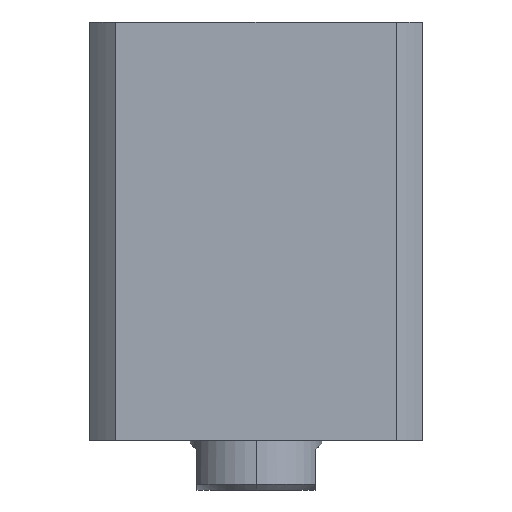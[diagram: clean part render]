
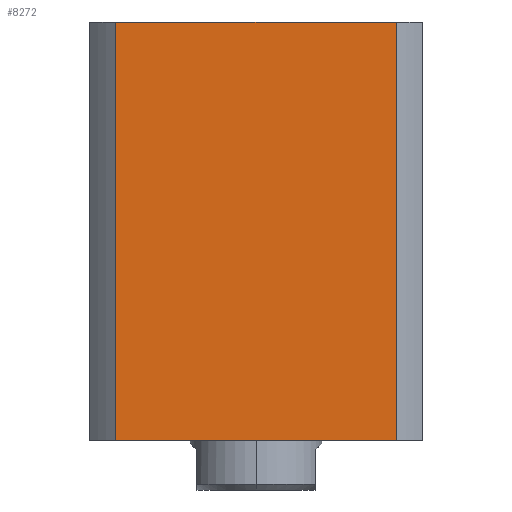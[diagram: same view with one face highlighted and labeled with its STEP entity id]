
A CAD part, front view. The second image highlights one B-rep face of the part: STEP entity #8272.
In plain terms, the highlighted planar face has unit normal (0, -1, 0) as drawn and (1, 0, 0) by its records, which use the part's own axes.
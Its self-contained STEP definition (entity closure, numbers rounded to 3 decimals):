
#492 = VECTOR ( 'NONE', #5270, 1000. ) ;
#880 = FACE_OUTER_BOUND ( 'NONE', #6778, .T. ) ;
#933 = DIRECTION ( 'NONE',  ( 0., 0., -1. ) ) ;
#1018 = DIRECTION ( 'NONE',  ( 0., 0., 1. ) ) ;
#1180 = ORIENTED_EDGE ( 'NONE', *, *, #10819, .F. ) ;
#1973 = DIRECTION ( 'NONE',  ( 0., -1., 0. ) ) ;
#2875 = CARTESIAN_POINT ( 'NONE',  ( 57., 57., 0. ) ) ;
#3218 = VECTOR ( 'NONE', #1018, 1000. ) ;
#3459 = CARTESIAN_POINT ( 'NONE',  ( 57., -47.971, 0. ) ) ;
#3609 = CARTESIAN_POINT ( 'NONE',  ( 57., 57., 143. ) ) ;
#3620 = CARTESIAN_POINT ( 'NONE',  ( 57., 47.971, 143. ) ) ;
#3955 = VERTEX_POINT ( 'NONE', #13575 ) ;
#4000 = AXIS2_PLACEMENT_3D ( 'NONE', #6695, #9075, #1973 ) ;
#4200 = VECTOR ( 'NONE', #933, 1000. ) ;
#4235 = ORIENTED_EDGE ( 'NONE', *, *, #12953, .F. ) ;
#4292 = PLANE ( 'NONE',  #4000 ) ;
#4523 = LINE ( 'NONE', #3609, #13595 ) ;
#4531 = EDGE_CURVE ( 'NONE', #9326, #7427, #13018, .T. ) ;
#5270 = DIRECTION ( 'NONE',  ( 0., 1., 0. ) ) ;
#6000 = EDGE_CURVE ( 'NONE', #3955, #10993, #4523, .T. ) ;
#6014 = ORIENTED_EDGE ( 'NONE', *, *, #4531, .T. ) ;
#6695 = CARTESIAN_POINT ( 'NONE',  ( 57., 57., 143. ) ) ;
#6778 = EDGE_LOOP ( 'NONE', ( #1180, #6014, #4235, #7705 ) ) ;
#7427 = VERTEX_POINT ( 'NONE', #10136 ) ;
#7705 = ORIENTED_EDGE ( 'NONE', *, *, #6000, .F. ) ;
#8272 = ADVANCED_FACE ( 'NONE', ( #880 ), #4292, .F. ) ;
#9075 = DIRECTION ( 'NONE',  ( -1., 0., 0. ) ) ;
#9326 = VERTEX_POINT ( 'NONE', #3459 ) ;
#10136 = CARTESIAN_POINT ( 'NONE',  ( 57., 47.971, 0. ) ) ;
#10500 = LINE ( 'NONE', #15041, #4200 ) ;
#10708 = DIRECTION ( 'NONE',  ( 0., 1., 0. ) ) ;
#10819 = EDGE_CURVE ( 'NONE', #9326, #3955, #12285, .T. ) ;
#10993 = VERTEX_POINT ( 'NONE', #3620 ) ;
#12285 = LINE ( 'NONE', #12881, #3218 ) ;
#12881 = CARTESIAN_POINT ( 'NONE',  ( 57., -47.971, -157. ) ) ;
#12953 = EDGE_CURVE ( 'NONE', #10993, #7427, #10500, .T. ) ;
#13018 = LINE ( 'NONE', #2875, #492 ) ;
#13575 = CARTESIAN_POINT ( 'NONE',  ( 57., -47.971, 143. ) ) ;
#13595 = VECTOR ( 'NONE', #10708, 1000. ) ;
#15041 = CARTESIAN_POINT ( 'NONE',  ( 57., 47.971, -157. ) ) ;
